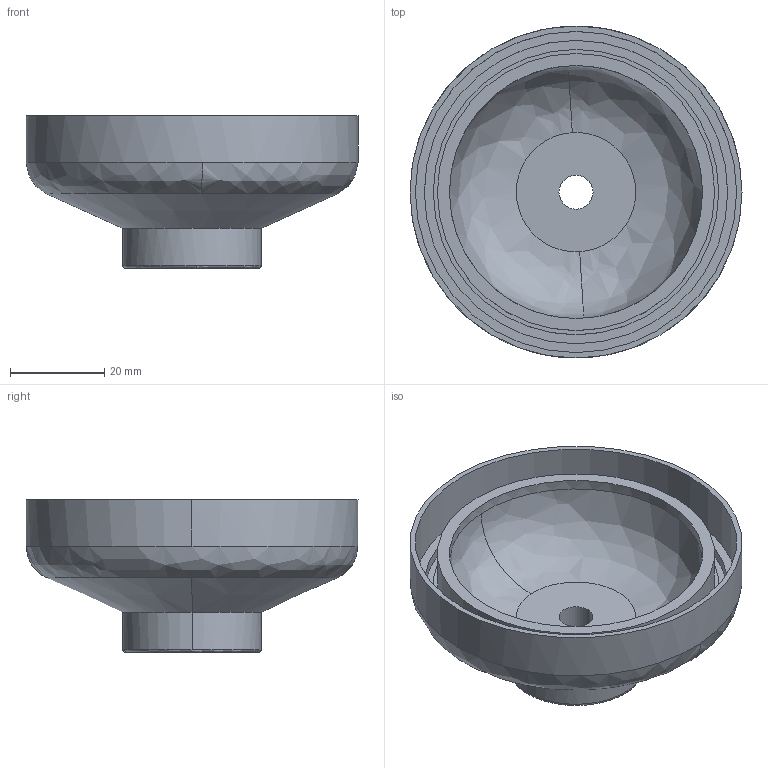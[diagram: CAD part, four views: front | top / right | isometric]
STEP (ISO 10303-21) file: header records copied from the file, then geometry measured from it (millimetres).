
FILE_DESCRIPTION (( 'STEP AP214' ), '1' );
FILE_NAME ('avt-pp-35_03.step', '2025-12-23T15:53:31', ( '' ), ( '' ), 'SwSTEP 2.0', 'SolidWorks 2026', '' );
FILE_SCHEMA (( 'AUTOMOTIVE_DESIGN' ));
Length unit declared in the file: inch
Products named in the file (1): avt-pp-35_03
Bounding box: 70.61 x 70.61 x 32.49 mm (x, y, z)
Volume: 30308.1 mm3; surface area: 18881.4 mm2
Topology: 1 solids, 1 shells, 69 faces, 154 edges, 96 vertices
Faces by surface type: cylinder 32, plane 19, bspline 14, cone 4
Entity records: 2993 total; most frequent: CARTESIAN_POINT 1482, ORIENTED_EDGE 308, DIRECTION 304, EDGE_CURVE 154, AXIS2_PLACEMENT_3D 122, VERTEX_POINT 96, EDGE_LOOP 80, FACE_OUTER_BOUND 69
